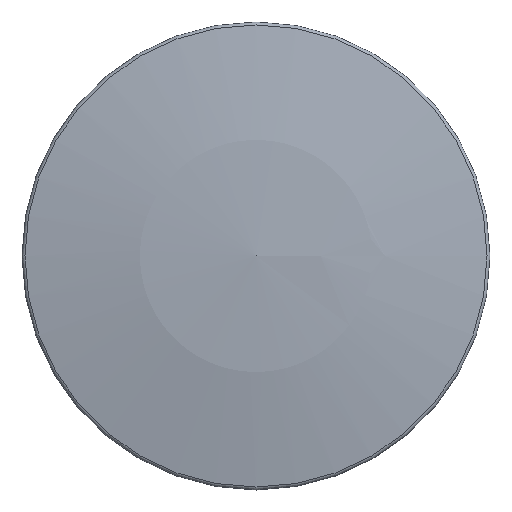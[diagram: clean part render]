
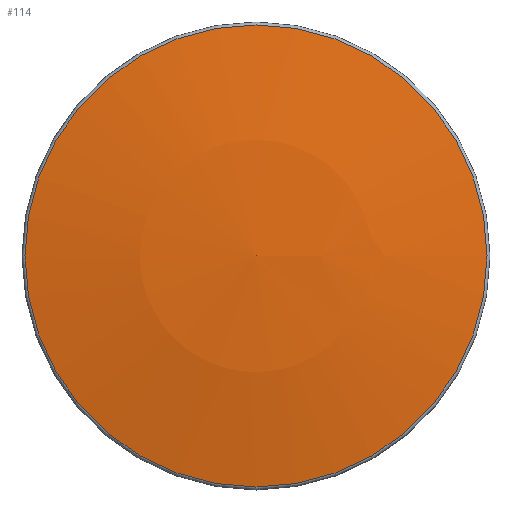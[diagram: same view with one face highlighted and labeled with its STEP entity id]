
A CAD part, top view. The second image highlights one B-rep face of the part: STEP entity #114.
In plain terms, the highlighted spherical face has radius 329.307 mm.
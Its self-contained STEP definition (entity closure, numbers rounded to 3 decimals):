
#28=FACE_OUTER_BOUND($,#38,.T.);
#38=EDGE_LOOP($,(#83));
#56=CIRCLE($,#128,62.791);
#65=VERTEX_POINT($,#188);
#74=EDGE_CURVE($,#65,#65,#56,.T.);
#83=ORIENTED_EDGE($,*,*,#74,.F.);
#101=SPHERICAL_SURFACE($,#127,329.306);
#114=ADVANCED_FACE($,(#28),#101,.T.);
#127=AXIS2_PLACEMENT_3D($,#187,#148,#149);
#128=AXIS2_PLACEMENT_3D($,#189,#150,#151);
#148=DIRECTION('center_axis',(0.,0.,1.));
#149=DIRECTION('ref_axis',(1.,0.,0.));
#150=DIRECTION('center_axis',(0.,0.,-1.));
#151=DIRECTION('ref_axis',(1.,0.,0.));
#187=CARTESIAN_POINT('Origin',(0.,0.,-263.006));
#188=CARTESIAN_POINT('',(0.,62.791,60.258));
#189=CARTESIAN_POINT('Origin',(0.,0.,60.258));
